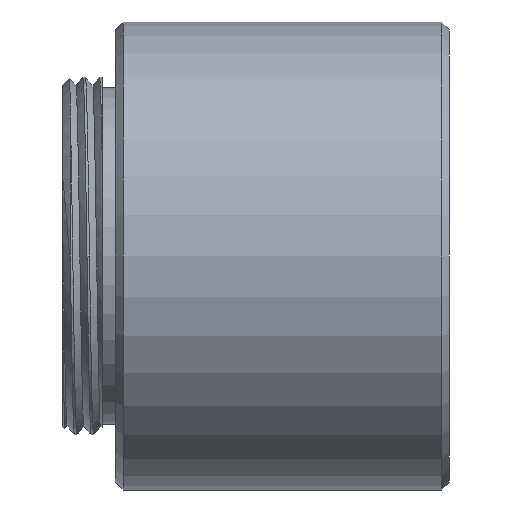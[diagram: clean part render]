
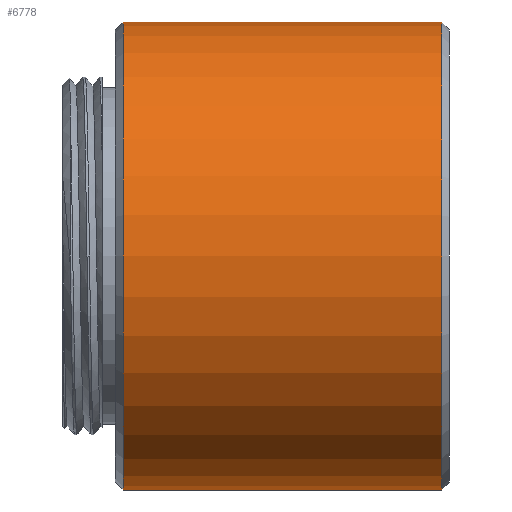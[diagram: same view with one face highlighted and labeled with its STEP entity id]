
A CAD part, front view. The second image highlights one B-rep face of the part: STEP entity #6778.
In plain terms, the highlighted cylindrical face has radius 8.89 mm (diameter 17.78 mm), a partial arc.
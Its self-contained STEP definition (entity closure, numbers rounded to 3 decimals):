
#2939=DIRECTION('',(1.,0.,0.));
#2940=VECTOR('',#2939,12.1);
#2941=CARTESIAN_POINT('',(0.3,0.,
-8.89));
#2942=LINE('',#2941,#2940);
#2943=CARTESIAN_POINT('',(12.4,0.,0.));
#2944=DIRECTION('',(1.,0.,0.));
#2945=DIRECTION('',(0.,0.,1.));
#2946=AXIS2_PLACEMENT_3D('',#2943,#2944,#2945);
#2948=CARTESIAN_POINT('',(0.3,0.,0.));
#2949=DIRECTION('',(-1.,0.,0.));
#2950=DIRECTION('',(0.,0.,-1.));
#2951=AXIS2_PLACEMENT_3D('',#2948,#2949,#2950);
#2953=DIRECTION('',(1.,0.,0.));
#2954=VECTOR('',#2953,12.1);
#2955=CARTESIAN_POINT('',(0.3,0.,
8.89));
#2956=LINE('',#2955,#2954);
#3201=CARTESIAN_POINT('',(0.3,0.,-8.89));
#3202=CARTESIAN_POINT('',(0.3,0.,8.89));
#3203=VERTEX_POINT('',#3201);
#3204=VERTEX_POINT('',#3202);
#3209=CARTESIAN_POINT('',(12.4,0.,8.89));
#3210=CARTESIAN_POINT('',(12.4,0.,-8.89));
#3211=VERTEX_POINT('',#3209);
#3212=VERTEX_POINT('',#3210);
#6766=CARTESIAN_POINT('',(0.,0.,0.));
#6767=DIRECTION('',(1.,0.,0.));
#6768=DIRECTION('',(0.,0.,-1.));
#6769=AXIS2_PLACEMENT_3D('',#6766,#6767,#6768);
#6770=CYLINDRICAL_SURFACE('',#6769,8.89);
#6771=ORIENTED_EDGE('',*,*,#6731,.T.);
#6772=ORIENTED_EDGE('',*,*,#6761,.F.);
#6774=ORIENTED_EDGE('',*,*,#6773,.T.);
#6775=ORIENTED_EDGE('',*,*,#6757,.T.);
#6776=EDGE_LOOP('',(#6771,#6772,#6774,#6775));
#6777=FACE_OUTER_BOUND('',#6776,.F.);
#6778=ADVANCED_FACE('',(#6777),#6770,.T.);
#2947=CIRCLE('',#2946,8.89);
#2952=CIRCLE('',#2951,8.89);
#6731=EDGE_CURVE('',#3211,#3212,#2947,.T.);
#6757=EDGE_CURVE('',#3204,#3211,#2956,.T.);
#6761=EDGE_CURVE('',#3203,#3212,#2942,.T.);
#6773=EDGE_CURVE('',#3203,#3204,#2952,.T.);
